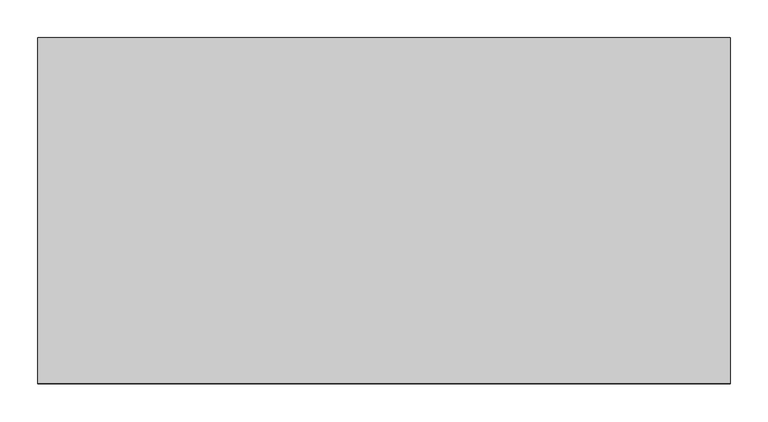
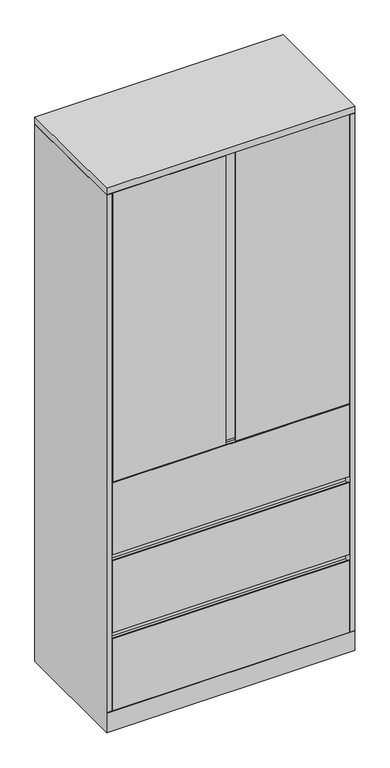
"""IFC4 building model written with IfcOpenShell, lengths in millimetres: furniture geometry, Steelcase - Universal Storage - Cabinet - Combination - Flush Steel : 83 1/2H - 3 Drawers - 18D x 36W."""

from ifc_helpers import new_model, si_unit, frame, origin, place, context, project, spatial, polyline, outline, extrude, faceted_brep, source, transform, mapped, element, save


def furniture_d0a158c2(model_context):
    return source(origin(), model_context, "Body", "SolidModel", [
        extrude(outline(polyline([(21.8068168, -431.673866), (893.572, -431.673866), (893.572, -457.2), (476.25, -457.2), (476.25, -452.883482), (489.4189152, -452.883482), (489.4189152, -438.0238781), (438.15, -438.0238781), (438.15, -457.2), (21.8068168, -457.2), (21.8068168, -431.673866)])), frame((0.0, 0.0, 968.756), z_axis=(0.0, 0.0, 1.0), x_axis=(1.0, 0.0, 0.0)), (0.0, 0.0, 1.0), 1125.22),
        extrude(outline(polyline([(914.4, 0.0), (914.4, -457.2), (0.0, -457.2), (0.0, 0.0), (914.4, 0.0)])), frame((0.0, 0.0, 2095.4999516), z_axis=(0.0, 0.0, 1.0), x_axis=(1.0, 0.0, 0.0)), (0.0, 0.0, 1.0), 25.4000484),
        extrude(outline(polyline([(889.0000242, -25.4000008), (889.0000242, -430.1498674), (25.4000008, -430.1498674), (25.4000008, -25.4000008), (889.0000242, -25.4000008)])), frame((0.0, 0.0, 1875.1550484), z_axis=(0.0, 0.0, 1.0), x_axis=(1.0, 0.0, 0.0)), (0.0, 0.0, 1.0), 22.2249516),
        extrude(outline(polyline([(889.0000242, -25.4000008), (889.0000242, -430.1498674), (25.4000008, -430.1498674), (25.4000008, -25.4000008), (889.0000242, -25.4000008)])), frame((0.0, 0.0, 1571.8790484), z_axis=(0.0, 0.0, 1.0), x_axis=(1.0, 0.0, 0.0)), (0.0, 0.0, 1.0), 22.2249516),
        extrude(outline(polyline([(-457.2, 358.7750484), (-454.0242491, 358.7750484), (-454.0242491, 349.2500484), (-431.673866, 349.2500484), (-431.673866, 381.0), (-430.1498674, 381.0), (-430.1498674, 349.2500484), (-430.1498674, 77.724), (-457.2, 77.724), (-457.2, 358.7750484)])), frame((20.8280006, 0.0, 0.0), z_axis=(1.0, 0.0, 0.0), x_axis=(0.0, 1.0, 0.0)), (0.0, 0.0, 1.0), 872.7439994),
        extrude(outline(polyline([(889.0000242, -25.4000008), (889.0000242, -430.1498674), (25.4000008, -430.1498674), (25.4000008, -25.4000008), (889.0000242, -25.4000008)])), frame((0.0, 0.0, 358.7750484), z_axis=(0.0, 0.0, 1.0), x_axis=(1.0, 0.0, 0.0)), (0.0, 0.0, 1.0), 22.2249516),
        extrude(outline(polyline([(889.0000242, -25.4000008), (889.0000242, -430.1498674), (25.4000008, -430.1498674), (25.4000008, -25.4000008), (889.0000242, -25.4000008)])), frame((0.0, 0.0, 1268.6030484), z_axis=(0.0, 0.0, 1.0), x_axis=(1.0, 0.0, 0.0)), (0.0, 0.0, 1.0), 22.2249516),
        extrude(outline(polyline([(-457.2, 965.3270484), (-454.0242491, 965.3270484), (-454.0242491, 955.8020484), (-431.673866, 955.8020484), (-431.673866, 987.552), (-430.1498674, 987.552), (-430.1498674, 955.8020484), (-430.1498674, 684.276), (-457.2, 684.276), (-457.2, 965.3270484)])), frame((20.8280006, 0.0, 0.0), z_axis=(1.0, 0.0, 0.0), x_axis=(0.0, 1.0, 0.0)), (0.0, 0.0, 1.0), 872.7439994),
        extrude(outline(polyline([(889.0000242, -25.4000008), (889.0000242, -430.1498674), (25.4000008, -430.1498674), (25.4000008, -25.4000008), (889.0000242, -25.4000008)])), frame((0.0, 0.0, 965.3270484), z_axis=(0.0, 0.0, 1.0), x_axis=(1.0, 0.0, 0.0)), (0.0, 0.0, 1.0), 22.2249516),
        extrude(outline(polyline([(-457.2, 662.0510484), (-454.0242491, 662.0510484), (-454.0242491, 652.5260484), (-431.673866, 652.5260484), (-431.673866, 684.276), (-430.1498674, 684.276), (-430.1498674, 652.5260484), (-430.1498674, 381.0), (-457.2, 381.0), (-457.2, 662.0510484)])), frame((20.8280006, 0.0, 0.0), z_axis=(1.0, 0.0, 0.0), x_axis=(0.0, 1.0, 0.0)), (0.0, 0.0, 1.0), 872.7439994),
        extrude(outline(polyline([(889.0000242, -25.4000008), (889.0000242, -430.1498674), (25.4000008, -430.1498674), (25.4000008, -25.4000008), (889.0000242, -25.4000008)])), frame((0.0, 0.0, 662.0510484), z_axis=(0.0, 0.0, 1.0), x_axis=(1.0, 0.0, 0.0)), (0.0, 0.0, 1.0), 22.2249516),
        faceted_brep([(914.4, 0.0, 0.0), (914.4, -457.2, 0.0), (0.0, -457.2, 0.0), (0.0, 0.0, 0.0), (0.0, 0.0, 2093.976), (914.4, 0.0, 2093.976), (0.0, -457.2, 76.2), (0.0, -457.2, 77.724), (0.0, -457.2, 2093.976), (914.4, -457.2, 76.2), (914.4, -457.2, 2093.976), (914.4, -457.2, 77.724), (889.0000242, -25.4000008, 2093.976), (889.0000242, -430.1498674, 2093.976), (893.572, -430.1498674, 2093.976), (893.572, -431.6738781, 2093.976), (895.096, -431.6738781, 2093.976), (895.096, -457.2, 2093.976), (19.304, -457.2, 2093.976), (19.304, -431.673866, 2093.976), (20.8280006, -431.673866, 2093.976), (20.8280006, -430.1498674, 2093.976), (25.4000008, -430.1498674, 2093.976), (25.4000008, -25.4000008, 2093.976), (19.304, -457.2, 77.724), (19.304, -437.896, 77.724), (895.096, -457.2, 77.724), (895.096, -437.7698418, 77.724), (889.0000242, -25.4000008, 77.724), (889.0000242, -430.1498674, 77.724), (893.572, -430.1498674, 77.724), (893.572, -431.6738781, 77.724), (895.096, -431.6738781, 77.724), (19.304, -431.673866, 77.724), (20.8280006, -431.673866, 77.724), (20.8280006, -430.1498674, 77.724), (25.4000008, -430.1498674, 77.724), (25.4000008, -25.4000008, 77.724), (25.526134, -431.673866, 77.724), (889.0000242, -431.673866, 77.724)], [[[0, 1, 2, 3]], [[0, 3, 4, 5]], [[4, 3, 2, 6, 7, 8]], [[2, 1, 9, 6]], [[1, 0, 5, 10, 11, 9]], [[12, 13, 14, 15, 16, 17, 10, 5, 4, 8, 18, 19, 20, 21, 22, 23]], [[24, 7, 25]], [[11, 26, 27]], [[13, 12, 28, 29]], [[14, 13, 29, 30]], [[15, 14, 30, 31]], [[16, 15, 31, 32]], [[17, 16, 32, 27, 26]], [[10, 17, 26, 11]], [[18, 8, 7, 24]], [[19, 18, 24, 25, 33]], [[20, 19, 33, 34]], [[21, 20, 34, 35]], [[22, 21, 35, 36]], [[23, 22, 36, 37]], [[12, 23, 37, 28]], [[38, 39, 27, 32, 31, 30, 29, 28, 37, 36, 35, 34, 33, 25]], [[7, 6, 38, 25]], [[39, 38, 6, 9]], [[39, 9, 11, 27]]]),
    ])


if __name__ == "__main__":
    model = new_model("IFC4")
    model_context = context("Model", 3, world=origin())
    ifc_project = project(units=[si_unit("LENGTHUNIT", "METRE", prefix="MILLI")], contexts=[model_context])
    site = spatial("IfcSite", under=ifc_project)
    building = spatial("IfcBuilding", under=site)
    placement = place(None, origin())
    furniture_shape = furniture_d0a158c2(model_context)
    element("IfcFurniture", 1, ObjectType="Steelcase - Universal Storage - Cabinet - Combination - Flush Steel : 83 1/2H - 3 Drawers - 18D x 36W", at=placement, inside=building, context=model_context, shape_type="MappedRepresentation", body=[
        mapped(furniture_shape, transform((0.0, 0.0, 0.0), x_axis=(1.0, 0.0, 0.0), y_axis=(0.0, 1.0, 0.0), z_axis=(0.0, 0.0, 1.0))),
    ])
    save(model, "model.ifc")
